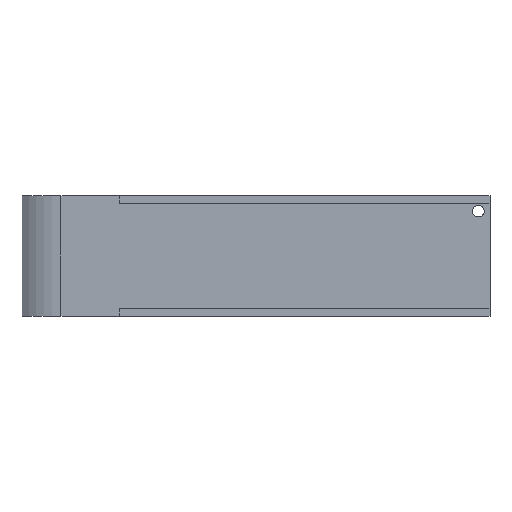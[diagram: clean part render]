
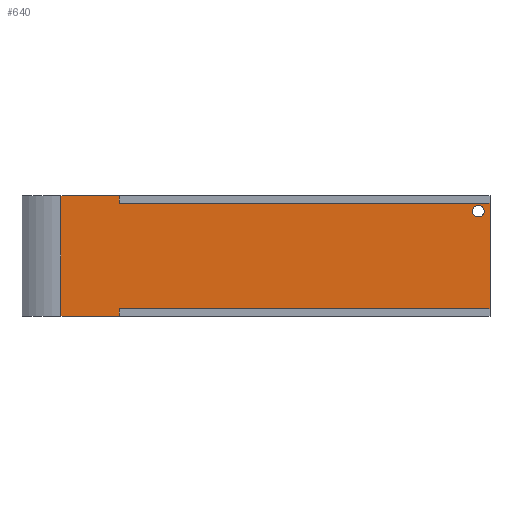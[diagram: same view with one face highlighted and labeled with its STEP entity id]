
A CAD part, front view. The second image highlights one B-rep face of the part: STEP entity #640.
In plain terms, the highlighted planar face has unit normal (0, -1, 0).
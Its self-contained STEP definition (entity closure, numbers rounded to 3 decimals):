
#1 = DIRECTION ( 'NONE',  ( 1., 0., 0. ) ) ;
#5 = PLANE ( 'NONE',  #337 ) ;
#10 = CARTESIAN_POINT ( 'NONE',  ( 95., 18., 29. ) ) ;
#15 = CARTESIAN_POINT ( 'NONE',  ( 0., 18., 2. ) ) ;
#22 = CARTESIAN_POINT ( 'NONE',  ( 0., 18., 29. ) ) ;
#27 = LINE ( 'NONE', #685, #230 ) ;
#59 = EDGE_CURVE ( 'NONE', #608, #493, #349, .T. ) ;
#61 = EDGE_LOOP ( 'NONE', ( #1118, #216, #530, #313, #688, #584, #258, #189 ) ) ;
#64 = CARTESIAN_POINT ( 'NONE',  ( -15., 18., 29. ) ) ;
#70 = DIRECTION ( 'NONE',  ( 0., -1., 0. ) ) ;
#75 = CARTESIAN_POINT ( 'NONE',  ( 0., 18., 2. ) ) ;
#108 = FACE_OUTER_BOUND ( 'NONE', #61, .T. ) ;
#118 = ORIENTED_EDGE ( 'NONE', *, *, #970, .F. ) ;
#120 = EDGE_CURVE ( 'NONE', #567, #270, #899, .T. ) ;
#149 = EDGE_CURVE ( 'NONE', #766, #238, #888, .T. ) ;
#166 = EDGE_CURVE ( 'NONE', #1121, #238, #450, .T. ) ;
#183 = VECTOR ( 'NONE', #466, 1000. ) ;
#187 = CARTESIAN_POINT ( 'NONE',  ( 92., 18., 27. ) ) ;
#189 = ORIENTED_EDGE ( 'NONE', *, *, #1078, .T. ) ;
#216 = ORIENTED_EDGE ( 'NONE', *, *, #1093, .F. ) ;
#230 = VECTOR ( 'NONE', #763, 1000. ) ;
#238 = VERTEX_POINT ( 'NONE', #682 ) ;
#243 = VECTOR ( 'NONE', #978, 1000. ) ;
#258 = ORIENTED_EDGE ( 'NONE', *, *, #166, .F. ) ;
#270 = VERTEX_POINT ( 'NONE', #15 ) ;
#285 = CARTESIAN_POINT ( 'NONE',  ( 92., 18., 25.5 ) ) ;
#287 = CARTESIAN_POINT ( 'NONE',  ( 0., 18., 0. ) ) ;
#290 = CARTESIAN_POINT ( 'NONE',  ( -15., 18., 31. ) ) ;
#308 = VERTEX_POINT ( 'NONE', #1196 ) ;
#313 = ORIENTED_EDGE ( 'NONE', *, *, #845, .F. ) ;
#337 = AXIS2_PLACEMENT_3D ( 'NONE', #645, #463, #668 ) ;
#349 = CIRCLE ( 'NONE', #874, 1.5 ) ;
#352 = VECTOR ( 'NONE', #747, 1000. ) ;
#448 = LINE ( 'NONE', #1106, #1189 ) ;
#450 = LINE ( 'NONE', #1028, #1072 ) ;
#462 = VERTEX_POINT ( 'NONE', #1094 ) ;
#463 = DIRECTION ( 'NONE',  ( 0., -1., 0. ) ) ;
#466 = DIRECTION ( 'NONE',  ( 0., 0., -1. ) ) ;
#493 = VERTEX_POINT ( 'NONE', #1086 ) ;
#502 = VERTEX_POINT ( 'NONE', #1180 ) ;
#511 = VECTOR ( 'NONE', #1012, 1000. ) ;
#530 = ORIENTED_EDGE ( 'NONE', *, *, #1024, .T. ) ;
#538 = LINE ( 'NONE', #1037, #511 ) ;
#567 = VERTEX_POINT ( 'NONE', #1081 ) ;
#584 = ORIENTED_EDGE ( 'NONE', *, *, #149, .T. ) ;
#606 = CIRCLE ( 'NONE', #795, 1.5 ) ;
#608 = VERTEX_POINT ( 'NONE', #285 ) ;
#640 = ADVANCED_FACE ( 'NONE', ( #855, #108 ), #5, .T. ) ;
#645 = CARTESIAN_POINT ( 'NONE',  ( 0., 18., 29. ) ) ;
#651 = DIRECTION ( 'NONE',  ( 0., -1., 0. ) ) ;
#668 = DIRECTION ( 'NONE',  ( 1., 0., 0. ) ) ;
#682 = CARTESIAN_POINT ( 'NONE',  ( -15., 18., 0. ) ) ;
#685 = CARTESIAN_POINT ( 'NONE',  ( 0., 18., 31. ) ) ;
#688 = ORIENTED_EDGE ( 'NONE', *, *, #1164, .F. ) ;
#747 = DIRECTION ( 'NONE',  ( -1., 0., 0. ) ) ;
#763 = DIRECTION ( 'NONE',  ( 0., 0., -1. ) ) ;
#766 = VERTEX_POINT ( 'NONE', #290 ) ;
#795 = AXIS2_PLACEMENT_3D ( 'NONE', #187, #651, #910 ) ;
#798 = DIRECTION ( 'NONE',  ( 0., 0., -1. ) ) ;
#807 = DIRECTION ( 'NONE',  ( 1., 0., 0. ) ) ;
#829 = VECTOR ( 'NONE', #798, 1000. ) ;
#835 = DIRECTION ( 'NONE',  ( -1., 0., 0. ) ) ;
#839 = LINE ( 'NONE', #22, #352 ) ;
#845 = EDGE_CURVE ( 'NONE', #308, #502, #27, .T. ) ;
#855 = FACE_BOUND ( 'NONE', #1161, .T. ) ;
#874 = AXIS2_PLACEMENT_3D ( 'NONE', #895, #70, #807 ) ;
#888 = LINE ( 'NONE', #64, #829 ) ;
#895 = CARTESIAN_POINT ( 'NONE',  ( 92., 18., 27. ) ) ;
#899 = LINE ( 'NONE', #75, #243 ) ;
#910 = DIRECTION ( 'NONE',  ( 1., 0., 0. ) ) ;
#970 = EDGE_CURVE ( 'NONE', #493, #608, #606, .T. ) ;
#978 = DIRECTION ( 'NONE',  ( -1., 0., 0. ) ) ;
#1012 = DIRECTION ( 'NONE',  ( 0., 0., 1. ) ) ;
#1024 = EDGE_CURVE ( 'NONE', #462, #502, #839, .T. ) ;
#1028 = CARTESIAN_POINT ( 'NONE',  ( 0., 18., 0. ) ) ;
#1037 = CARTESIAN_POINT ( 'NONE',  ( 0., 18., 0. ) ) ;
#1069 = ORIENTED_EDGE ( 'NONE', *, *, #59, .F. ) ;
#1072 = VECTOR ( 'NONE', #835, 1000. ) ;
#1078 = EDGE_CURVE ( 'NONE', #1121, #270, #538, .T. ) ;
#1081 = CARTESIAN_POINT ( 'NONE',  ( 95., 18., 2. ) ) ;
#1086 = CARTESIAN_POINT ( 'NONE',  ( 92., 18., 28.5 ) ) ;
#1093 = EDGE_CURVE ( 'NONE', #462, #567, #1128, .T. ) ;
#1094 = CARTESIAN_POINT ( 'NONE',  ( 95., 18., 29. ) ) ;
#1106 = CARTESIAN_POINT ( 'NONE',  ( -15., 18., 31. ) ) ;
#1118 = ORIENTED_EDGE ( 'NONE', *, *, #120, .F. ) ;
#1121 = VERTEX_POINT ( 'NONE', #287 ) ;
#1128 = LINE ( 'NONE', #10, #183 ) ;
#1161 = EDGE_LOOP ( 'NONE', ( #118, #1069 ) ) ;
#1164 = EDGE_CURVE ( 'NONE', #766, #308, #448, .T. ) ;
#1180 = CARTESIAN_POINT ( 'NONE',  ( 0., 18., 29. ) ) ;
#1189 = VECTOR ( 'NONE', #1, 1000. ) ;
#1196 = CARTESIAN_POINT ( 'NONE',  ( 0., 18., 31. ) ) ;
